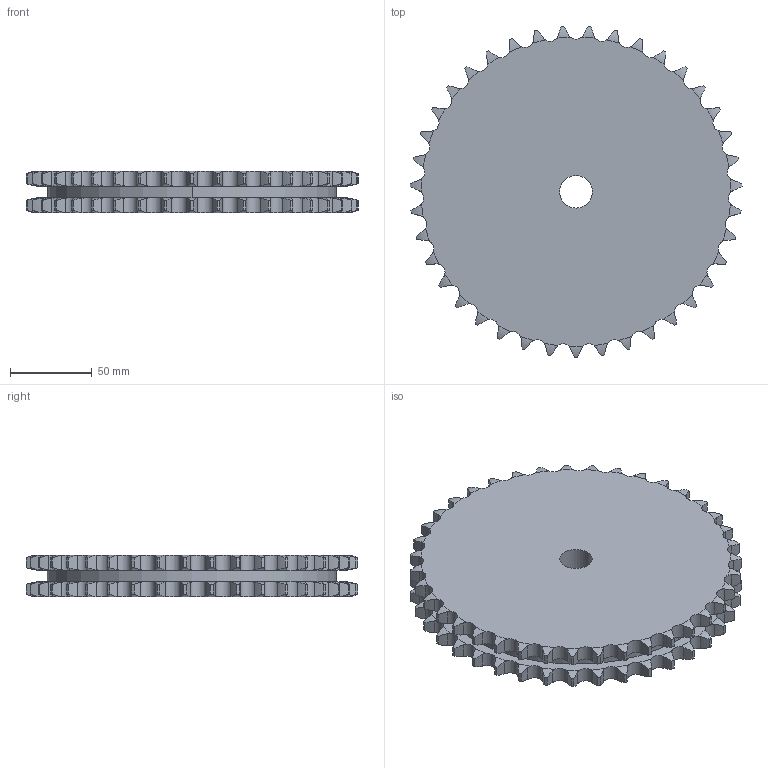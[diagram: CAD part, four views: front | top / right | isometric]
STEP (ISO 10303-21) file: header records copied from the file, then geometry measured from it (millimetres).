
FILE_DESCRIPTION((''),'2;1');
FILE_NAME('500-302-0039_PRT','2021-02-12T',('Brieden'),('Brieden'),'PRO/ENGINEER BY PARAMETRIC TECHNOLOGY CORPORATION, 2010160','PRO/ENGINEER BY PARAMETRIC TECHNOLOGY CORPORATION, 2010160','');
FILE_SCHEMA(('AUTOMOTIVE_DESIGN { 1 0 10303 214 1 1 1 1 }'));
Length unit declared in the file: millimetre
Products named in the file (1): 500-302-0039_PRT
Bounding box: 203.55 x 203.38 x 25.5 mm (x, y, z)
Volume: 704331.1 mm3; surface area: 89108.2 mm2
Topology: 1 solids, 1 shells, 476 faces, 1416 edges, 944 vertices
Faces by surface type: cylinder 316, torus 156, plane 4
Entity records: 23204 total; most frequent: CARTESIAN_POINT 6873, ORIENTED_EDGE 2832, DIRECTION 2220, PRESENTATION_STYLE_ASSIGNMENT 1417, STYLED_ITEM 1417, CURVE_STYLE 1416, EDGE_CURVE 1416, AXIS2_PLACEMENT_3D 952
